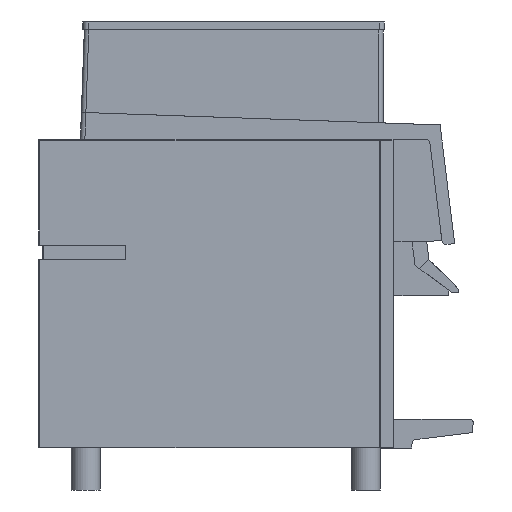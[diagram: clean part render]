
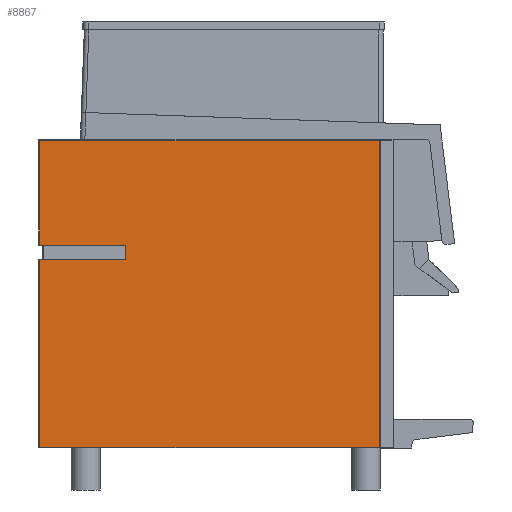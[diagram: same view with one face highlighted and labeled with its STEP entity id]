
A CAD part, left-side view. The second image highlights one B-rep face of the part: STEP entity #8867.
In plain terms, the highlighted planar face has unit normal (-1, 0, 0).
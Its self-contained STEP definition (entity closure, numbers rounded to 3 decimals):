
#460=LINE('',#11892,#1193);
#702=LINE('',#12508,#1435);
#703=LINE('',#12510,#1436);
#704=LINE('',#12512,#1437);
#705=LINE('',#12514,#1438);
#706=LINE('',#12516,#1439);
#707=LINE('',#12518,#1440);
#708=LINE('',#12520,#1441);
#709=LINE('',#12522,#1442);
#710=LINE('',#12524,#1443);
#1193=VECTOR('',#9950,1000.);
#1435=VECTOR('',#10442,1000.);
#1436=VECTOR('',#10443,1000.);
#1437=VECTOR('',#10444,1000.);
#1438=VECTOR('',#10445,1000.);
#1439=VECTOR('',#10446,1000.);
#1440=VECTOR('',#10447,1000.);
#1441=VECTOR('',#10448,1000.);
#1442=VECTOR('',#10449,1000.);
#1443=VECTOR('',#10450,1000.);
#2353=ORIENTED_EDGE('',*,*,#3851,.F.);
#2354=ORIENTED_EDGE('',*,*,#4164,.T.);
#2355=ORIENTED_EDGE('',*,*,#4165,.T.);
#2356=ORIENTED_EDGE('',*,*,#4166,.T.);
#2357=ORIENTED_EDGE('',*,*,#4167,.F.);
#2358=ORIENTED_EDGE('',*,*,#4168,.F.);
#2359=ORIENTED_EDGE('',*,*,#4169,.F.);
#2360=ORIENTED_EDGE('',*,*,#4170,.T.);
#2361=ORIENTED_EDGE('',*,*,#4171,.T.);
#2362=ORIENTED_EDGE('',*,*,#4172,.T.);
#3851=EDGE_CURVE('',#4780,#4781,#460,.T.);
#4164=EDGE_CURVE('',#4780,#5030,#702,.T.);
#4165=EDGE_CURVE('',#5030,#5031,#703,.F.);
#4166=EDGE_CURVE('',#5031,#5032,#704,.F.);
#4167=EDGE_CURVE('',#5033,#5032,#705,.T.);
#4168=EDGE_CURVE('',#5034,#5033,#706,.T.);
#4169=EDGE_CURVE('',#5035,#5034,#707,.T.);
#4170=EDGE_CURVE('',#5035,#5036,#708,.T.);
#4171=EDGE_CURVE('',#5036,#5037,#709,.T.);
#4172=EDGE_CURVE('',#5037,#4781,#710,.F.);
#4780=VERTEX_POINT('',#11891);
#4781=VERTEX_POINT('',#11893);
#5030=VERTEX_POINT('',#12509);
#5031=VERTEX_POINT('',#12511);
#5032=VERTEX_POINT('',#12513);
#5033=VERTEX_POINT('',#12515);
#5034=VERTEX_POINT('',#12517);
#5035=VERTEX_POINT('',#12519);
#5036=VERTEX_POINT('',#12521);
#5037=VERTEX_POINT('',#12523);
#5374=EDGE_LOOP('',(#2353,#2354,#2355,#2356,#2357,#2358,#2359,#2360,#2361,
#2362));
#5760=FACE_BOUND('',#5374,.T.);
#6120=PLANE('',#9338);
#8867=ADVANCED_FACE('',(#5760),#6120,.F.);
#9338=AXIS2_PLACEMENT_3D('',#12507,#10440,#10441);
#9950=DIRECTION('',(0.,1.,0.));
#10440=DIRECTION('',(1.,0.,0.));
#10441=DIRECTION('',(0.,1.,0.));
#10442=DIRECTION('',(0.,0.,1.));
#10443=DIRECTION('',(0.,-1.,0.));
#10444=DIRECTION('',(0.,0.,1.));
#10445=DIRECTION('',(0.,1.,0.));
#10446=DIRECTION('',(0.,1.,0.));
#10447=DIRECTION('',(0.,0.,1.));
#10448=DIRECTION('',(0.,1.,0.));
#10449=DIRECTION('',(0.,1.,0.));
#10450=DIRECTION('',(0.,0.,1.));
#11891=CARTESIAN_POINT('',(-394.,-470.,0.));
#11892=CARTESIAN_POINT('',(-394.,-490.,0.));
#11893=CARTESIAN_POINT('',(-394.,-1.2,0.));
#12507=CARTESIAN_POINT('',(-394.,0.,0.));
#12508=CARTESIAN_POINT('',(-394.,-470.,420.5));
#12509=CARTESIAN_POINT('',(-394.,-470.,424.8));
#12510=CARTESIAN_POINT('',(-394.,0.,424.8));
#12511=CARTESIAN_POINT('',(-394.,-1.2,424.8));
#12512=CARTESIAN_POINT('',(-394.,-1.2,0.));
#12513=CARTESIAN_POINT('',(-394.,-1.2,280.));
#12514=CARTESIAN_POINT('',(-394.,-5.,280.));
#12515=CARTESIAN_POINT('',(-394.,-5.133,280.));
#12516=CARTESIAN_POINT('',(-394.,-120.,280.));
#12517=CARTESIAN_POINT('',(-394.,-120.,280.));
#12518=CARTESIAN_POINT('',(-394.,-120.,260.));
#12519=CARTESIAN_POINT('',(-394.,-120.,260.));
#12520=CARTESIAN_POINT('',(-394.,-120.,260.));
#12521=CARTESIAN_POINT('',(-394.,-5.133,260.));
#12522=CARTESIAN_POINT('',(-394.,-5.,260.));
#12523=CARTESIAN_POINT('',(-394.,-1.2,260.));
#12524=CARTESIAN_POINT('',(-394.,-1.2,0.));
